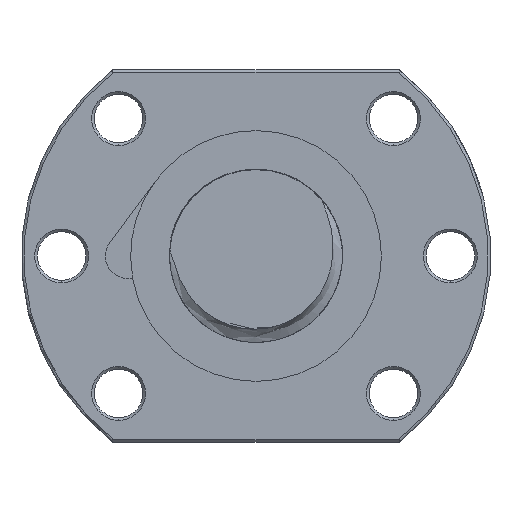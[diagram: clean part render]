
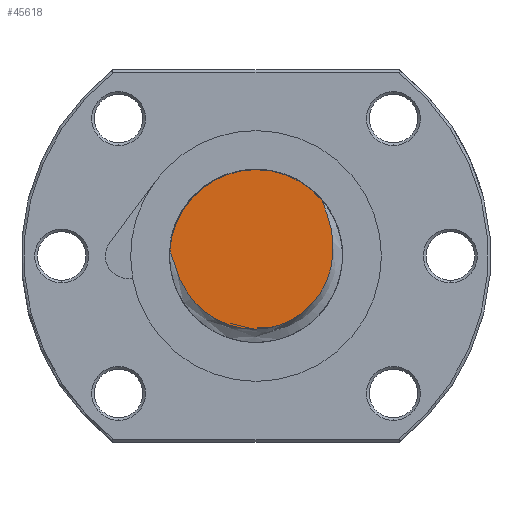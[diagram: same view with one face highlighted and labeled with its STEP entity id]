
A CAD part, left-side view. The second image highlights one B-rep face of the part: STEP entity #45618.
In plain terms, the highlighted planar face has unit normal (-1, 0, 0).
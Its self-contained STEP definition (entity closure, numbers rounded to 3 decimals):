
#9183 = CARTESIAN_POINT ( 'NONE',  ( -203., 0., 16. ) ) ;
#9184 = CARTESIAN_POINT ( 'NONE',  ( -203., 15.961, 1.121 ) ) ;
#9185 = DIRECTION ( 'NONE',  ( 0., 1., 0. ) ) ;
#9186 = DIRECTION ( 'NONE',  ( 1., 0., 0. ) ) ;
#9187 = CARTESIAN_POINT ( 'NONE',  ( -203., 0., 0. ) ) ;
#9188 = AXIS2_PLACEMENT_3D ( 'NONE', #9187, #9186, #9185 ) ;
#9189 = CIRCLE ( 'NONE', #9188, 16. ) ;
#10158 = CARTESIAN_POINT ( 'NONE',  ( -203., -12.254, 10.288 ) ) ;
#10161 = DIRECTION ( 'NONE',  ( 0., 1., 0. ) ) ;
#10163 = DIRECTION ( 'NONE',  ( 1., 0., 0. ) ) ;
#10165 = AXIS2_PLACEMENT_3D ( 'NONE', #10181, #10163, #10161 ) ;
#10167 = CIRCLE ( 'NONE', #10165, 16. ) ;
#10181 = CARTESIAN_POINT ( 'NONE',  ( -203., 0., 0. ) ) ;
#14025 = CARTESIAN_POINT ( 'NONE',  ( -203., -12.254, 10.288 ) ) ;
#14026 = CARTESIAN_POINT ( 'NONE',  ( -203., -12.336, 10.009 ) ) ;
#14027 = CARTESIAN_POINT ( 'NONE',  ( -203., -12.434, 9.735 ) ) ;
#14028 = CARTESIAN_POINT ( 'NONE',  ( -203., -12.633, 9.188 ) ) ;
#14029 = CARTESIAN_POINT ( 'NONE',  ( -203., -12.735, 8.916 ) ) ;
#14030 = CARTESIAN_POINT ( 'NONE',  ( -203., -13.036, 8.096 ) ) ;
#14031 = CARTESIAN_POINT ( 'NONE',  ( -203., -13.229, 7.547 ) ) ;
#14032 = CARTESIAN_POINT ( 'NONE',  ( -203., -13.573, 6.437 ) ) ;
#14033 = CARTESIAN_POINT ( 'NONE',  ( -203., -13.726, 5.876 ) ) ;
#14034 = CARTESIAN_POINT ( 'NONE',  ( -203., -13.98, 4.739 ) ) ;
#14035 = CARTESIAN_POINT ( 'NONE',  ( -203., -14.082, 4.161 ) ) ;
#14036 = CARTESIAN_POINT ( 'NONE',  ( -203., -14.299, 2.429 ) ) ;
#14037 = CARTESIAN_POINT ( 'NONE',  ( -203., -14.331, 1.272 ) ) ;
#14038 = CARTESIAN_POINT ( 'NONE',  ( -203., -14.187, -0.468 ) ) ;
#14039 = CARTESIAN_POINT ( 'NONE',  ( -203., -14.107, -1.051 ) ) ;
#14040 = CARTESIAN_POINT ( 'NONE',  ( -203., -13.884, -2.192 ) ) ;
#14041 = CARTESIAN_POINT ( 'NONE',  ( -203., -13.741, -2.753 ) ) ;
#14042 = CARTESIAN_POINT ( 'NONE',  ( -203., -13.393, -3.857 ) ) ;
#14043 = CARTESIAN_POINT ( 'NONE',  ( -203., -13.188, -4.399 ) ) ;
#14044 = CARTESIAN_POINT ( 'NONE',  ( -203., -12.711, -5.463 ) ) ;
#14045 = CARTESIAN_POINT ( 'NONE',  ( -203., -12.44, -5.985 ) ) ;
#14046 = CARTESIAN_POINT ( 'NONE',  ( -203., -11.548, -7.481 ) ) ;
#14047 = CARTESIAN_POINT ( 'NONE',  ( -203., -10.844, -8.399 ) ) ;
#14048 = CARTESIAN_POINT ( 'NONE',  ( -203., -9.615, -9.653 ) ) ;
#14049 = CARTESIAN_POINT ( 'NONE',  ( -203., -9.181, -10.045 ) ) ;
#14050 = CARTESIAN_POINT ( 'NONE',  ( -203., -8.276, -10.77 ) ) ;
#14051 = CARTESIAN_POINT ( 'NONE',  ( -203., -7.804, -11.104 ) ) ;
#14052 = CARTESIAN_POINT ( 'NONE',  ( -203., -6.819, -11.714 ) ) ;
#14053 = CARTESIAN_POINT ( 'NONE',  ( -203., -6.305, -11.992 ) ) ;
#14054 = CARTESIAN_POINT ( 'NONE',  ( -203., -5.242, -12.483 ) ) ;
#14055 = CARTESIAN_POINT ( 'NONE',  ( -203., -4.701, -12.694 ) ) ;
#14056 = CARTESIAN_POINT ( 'NONE',  ( -203., -3.6, -13.05 ) ) ;
#14057 = CARTESIAN_POINT ( 'NONE',  ( -203., -3.04, -13.194 ) ) ;
#14058 = CARTESIAN_POINT ( 'NONE',  ( -203., -2.185, -13.359 ) ) ;
#14059 = CARTESIAN_POINT ( 'NONE',  ( -203., -1.898, -13.406 ) ) ;
#14060 = CARTESIAN_POINT ( 'NONE',  ( -203., -1.319, -13.482 ) ) ;
#14061 = CARTESIAN_POINT ( 'NONE',  ( -203., -1.026, -13.511 ) ) ;
#14062 = CARTESIAN_POINT ( 'NONE',  ( -203., 0.429, -13.612 ) ) ;
#14063 = CARTESIAN_POINT ( 'NONE',  ( -203., 1.583, -13.553 ) ) ;
#14064 = CARTESIAN_POINT ( 'NONE',  ( -203., 3.301, -13.257 ) ) ;
#14065 = CARTESIAN_POINT ( 'NONE',  ( -203., 3.874, -13.122 ) ) ;
#14066 = CARTESIAN_POINT ( 'NONE',  ( -203., 4.99, -12.789 ) ) ;
#14067 = CARTESIAN_POINT ( 'NONE',  ( -203., 5.534, -12.591 ) ) ;
#14068 = CARTESIAN_POINT ( 'NONE',  ( -203., 6.593, -12.132 ) ) ;
#14069 = CARTESIAN_POINT ( 'NONE',  ( -203., 7.109, -11.872 ) ) ;
#14070 = CARTESIAN_POINT ( 'NONE',  ( -203., 8.114, -11.29 ) ) ;
#14071 = CARTESIAN_POINT ( 'NONE',  ( -203., 8.606, -10.966 ) ) ;
#14072 = CARTESIAN_POINT ( 'NONE',  ( -203., 10.008, -9.923 ) ) ;
#14073 = CARTESIAN_POINT ( 'NONE',  ( -203., 10.85, -9.131 ) ) ;
#14074 = CARTESIAN_POINT ( 'NONE',  ( -203., 11.983, -7.808 ) ) ;
#14075 = CARTESIAN_POINT ( 'NONE',  ( -203., 12.341, -7.341 ) ) ;
#14076 = CARTESIAN_POINT ( 'NONE',  ( -203., 13., -6.382 ) ) ;
#14077 = CARTESIAN_POINT ( 'NONE',  ( -203., 13.301, -5.889 ) ) ;
#14078 = CARTESIAN_POINT ( 'NONE',  ( -203., 14.13, -4.374 ) ) ;
#14079 = CARTESIAN_POINT ( 'NONE',  ( -203., 14.579, -3.315 ) ) ;
#14080 = CARTESIAN_POINT ( 'NONE',  ( -203., 15.139, -1.671 ) ) ;
#14081 = CARTESIAN_POINT ( 'NONE',  ( -203., 15.305, -1.113 ) ) ;
#14082 = CARTESIAN_POINT ( 'NONE',  ( -203., 15.543, -0.273 ) ) ;
#14083 = CARTESIAN_POINT ( 'NONE',  ( -203., 15.621, 0.008 ) ) ;
#14084 = CARTESIAN_POINT ( 'NONE',  ( -203., 15.781, 0.568 ) ) ;
#14085 = CARTESIAN_POINT ( 'NONE',  ( -203., 15.862, 0.847 ) ) ;
#14086 = CARTESIAN_POINT ( 'NONE',  ( -203., 15.961, 1.121 ) ) ;
#14087 = B_SPLINE_CURVE_WITH_KNOTS ( 'NONE', 3,
 ( #14086, #14085, #14084, #14083, #14082, #14081, #14080, #14079, #14078, #14077, #14076, #14075, #14074, #14073, #14072, #14071, #14070, #14069, #14068, #14067, #14066, #14065, #14064, #14063, #14062, #14061, #14060, #14059, #14058, #14057, #14056, #14055, #14054, #14053, #14052, #14051, #14050, #14049, #14048, #14047, #14046, #14045, #14044, #14043, #14042, #14041, #14040, #14039, #14038, #14037, #14036, #14035, #14034, #14033, #14032, #14031, #14030, #14029, #14028, #14027, #14026, #14025 ),
 .UNSPECIFIED., .F., .F.,
 ( 4, 2, 2, 2, 2, 2, 2, 2, 2, 2, 2, 2, 2, 2, 2, 2, 2, 2, 2, 2, 2, 2, 2, 2, 2, 2, 2, 2, 2, 2, 4 ),
 ( 0.001, 0.001, 0.002, 0.004, 0.008, 0.009, 0.011, 0.015, 0.016, 0.018, 0.02, 0.022, 0.025, 0.026, 0.027, 0.029, 0.03, 0.032, 0.034, 0.035, 0.039, 0.041, 0.042, 0.044, 0.046, 0.049, 0.051, 0.053, 0.055, 0.056, 0.056 ),
 .UNSPECIFIED. ) ;
#14090 = DIRECTION ( 'NONE',  ( 0., 0., -1. ) ) ;
#14091 = DIRECTION ( 'NONE',  ( 1., 0., 0. ) ) ;
#14100 = CARTESIAN_POINT ( 'NONE',  ( -203., 0., 0. ) ) ;
#14101 = PLANE ( 'NONE',  #14103 ) ;
#14103 = AXIS2_PLACEMENT_3D ( 'NONE', #14100, #14091, #14090 ) ;
#14104 = FACE_OUTER_BOUND ( 'NONE', #45619, .T. ) ;
#45255 = EDGE_CURVE ( 'NONE', #45256, #45257, #9189, .T. ) ;
#45256 = VERTEX_POINT ( 'NONE', #9184 ) ;
#45257 = VERTEX_POINT ( 'NONE', #9183 ) ;
#45348 = EDGE_CURVE ( 'NONE', #45257, #45349, #10167, .T. ) ;
#45349 = VERTEX_POINT ( 'NONE', #10158 ) ;
#45618 = ADVANCED_FACE ( 'NONE', ( #14104 ), #14101, .F. ) ;
#45619 = EDGE_LOOP ( 'NONE', ( #45620, #45621, #45623 ) ) ;
#45620 = ORIENTED_EDGE ( 'NONE', *, *, #45255, .F. ) ;
#45621 = ORIENTED_EDGE ( 'NONE', *, *, #45622, .T. ) ;
#45622 = EDGE_CURVE ( 'NONE', #45256, #45349, #14087, .T. ) ;
#45623 = ORIENTED_EDGE ( 'NONE', *, *, #45348, .F. ) ;
